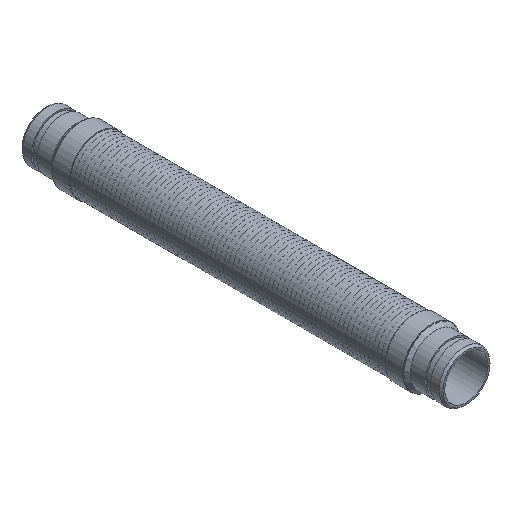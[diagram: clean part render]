
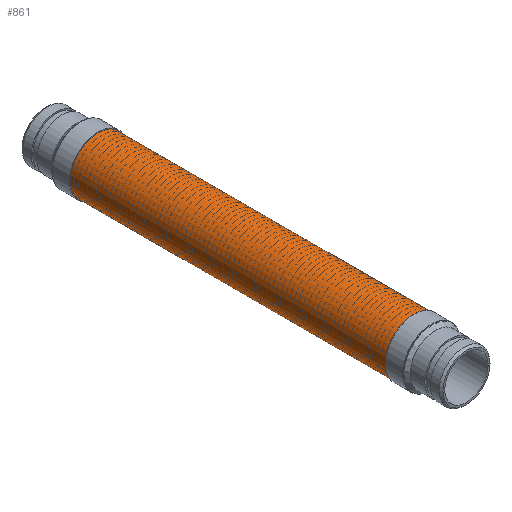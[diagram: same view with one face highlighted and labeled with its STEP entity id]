
A CAD part, isometric view. The second image highlights one B-rep face of the part: STEP entity #861.
In plain terms, the highlighted cylindrical face has radius 40.284 mm (diameter 80.569 mm), a full revolution.
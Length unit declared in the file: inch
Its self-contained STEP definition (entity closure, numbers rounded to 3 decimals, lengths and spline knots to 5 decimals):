
#827=CARTESIAN_POINT('',(-1.586,-10.0,0.));
#828=VERTEX_POINT('',#827);
#829=CARTESIAN_POINT('',(0.0,-10.0,0.0));
#830=DIRECTION('',(0.0,1.0,0.0));
#831=DIRECTION('',(1.0,0.0,0.0));
#832=AXIS2_PLACEMENT_3D('',#829,#830,#831);
#833=CIRCLE('',#832,1.586);
#834=EDGE_CURVE('',#828,#828,#833,.T.);
#842=CARTESIAN_POINT('',(0.0,0.0,0.0));
#843=DIRECTION('',(0.0,1.0,0.0));
#844=DIRECTION('',(1.0,0.0,0.0));
#845=AXIS2_PLACEMENT_3D('',#842,#843,#844);
#846=CYLINDRICAL_SURFACE('',#845,1.586);
#847=ORIENTED_EDGE('',*,*,#834,.T.);
#848=EDGE_LOOP('',(#847));
#849=FACE_OUTER_BOUND('',#848,.T.);
#850=CARTESIAN_POINT('',(-1.586,10.0,0.));
#851=VERTEX_POINT('',#850);
#852=CARTESIAN_POINT('',(0.0,10.0,0.0));
#853=DIRECTION('',(0.0,-1.0,0.0));
#854=DIRECTION('',(1.0,0.0,0.0));
#855=AXIS2_PLACEMENT_3D('',#852,#853,#854);
#856=CIRCLE('',#855,1.586);
#857=EDGE_CURVE('',#851,#851,#856,.T.);
#858=ORIENTED_EDGE('',*,*,#857,.T.);
#859=EDGE_LOOP('',(#858));
#860=FACE_BOUND('',#859,.T.);
#861=ADVANCED_FACE('',(#849,#860),#846,.T.);
